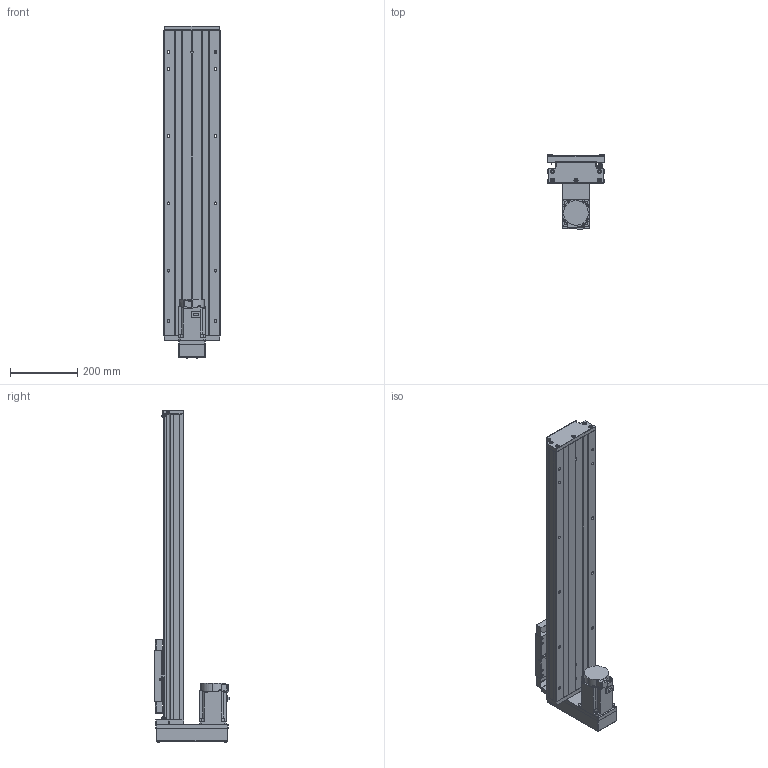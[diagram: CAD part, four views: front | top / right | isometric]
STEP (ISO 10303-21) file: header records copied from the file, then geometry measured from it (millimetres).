
FILE_DESCRIPTION (( 'STEP AP203' ), '1' );
FILE_NAME ('GTH17-650-BM-M75-C4.step', '2023-06-30T12:40:32', ( '微软用户' ), ( '微软中国' ), 'SwSTEP 2.0', 'SolidWorks 2020', '' );
FILE_SCHEMA (( 'CONFIG_CONTROL_DESIGN' ));
Length unit declared in the file: millimetre
Products named in the file (19): GBT 70.1-M3℅5; GBT 70.2-M4¡Á45_M4¡Á35; GTH17-004; GBT77-2000 M3×3; GTH17-015-2_CTHA86-015-2; GTH17-005; GBT 70.1-M6¡Á20_M6¡Á20; GTH17-033; GB1155-6X6; GTH17-031; GTH17-650-BM-M75-C4; CTHA60-017; GBT 70.2-M3¡Á5_M3¡Á6; EE_SX911P_R; す晦芛蹟隊 M3℅5; GTH17-001_650; CTHA60-016; HG-KN73J-S100; GTH17-002_GTH17-002
Assembly tree (58 placements, depth 2):
  GTH17-650-BM-M75-C4
    GTH17-001_650
    GTH17-002_GTH17-002
    GTH17-004
    GTH17-005
    GB1155-6X6  x2
    CTHA60-017  x3
    EE_SX911P_R  x3
    CTHA60-016  x2
    GBT 70.1-M3℅5  x6
    GBT77-2000 M3×3  x6
    GBT 70.1-M6¡Á20_M6¡Á20  x10
    GTH17-031
    GBT 70.2-M3¡Á5_M3¡Á6  x8
    す晦芛蹟隊 M3℅5  x6
    HG-KN73J-S100
    GBT 70.2-M4¡Á45_M4¡Á35  x4
    GTH17-015-2_CTHA86-015-2
    GTH17-033
Bounding box: 171 x 222.3 x 988.2 mm (x, y, z)
Volume: 8334091.7 mm3; surface area: 1179185.3 mm2
Topology: 61 solids, 61 shells, 2449 faces, 5845 edges, 3619 vertices
Faces by surface type: plane 1310, cylinder 666, cone 297, torus 124, sphere 32, bspline 20
Entity records: 44738 total; most frequent: CARTESIAN_POINT 10366, DIRECTION 6481, ORIENTED_EDGE 6402, EDGE_CURVE 3201, AXIS2_PLACEMENT_3D 2212, LINE 2057, VECTOR 2057, VERTEX_POINT 2031
